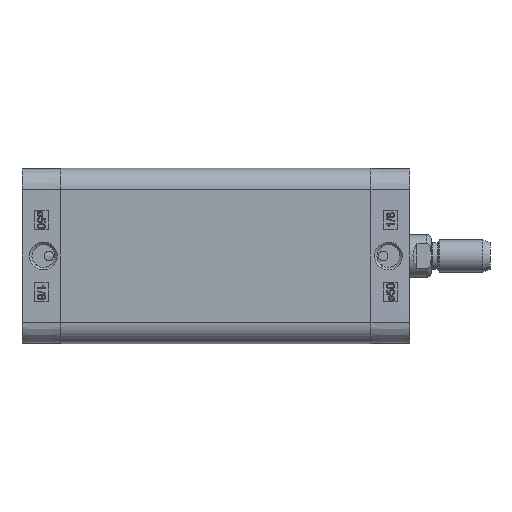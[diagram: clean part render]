
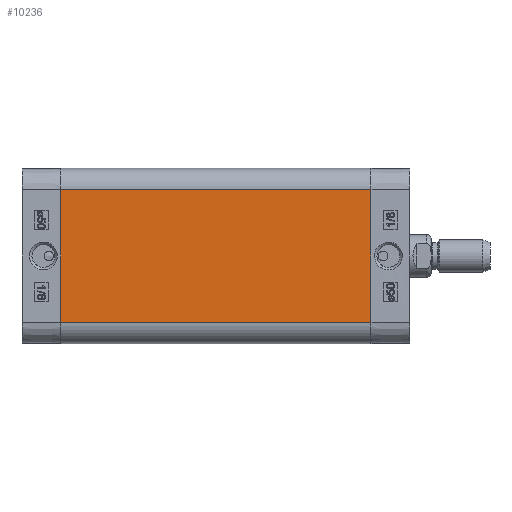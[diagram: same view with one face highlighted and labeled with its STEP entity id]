
A CAD part, left-side view. The second image highlights one B-rep face of the part: STEP entity #10236.
In plain terms, the highlighted planar face has unit normal (-1, 0, 0).
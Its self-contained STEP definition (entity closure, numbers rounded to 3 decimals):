
#5238=CARTESIAN_POINT('',(-32.75,-116.0,24.75));
#5239=VERTEX_POINT('',#5238);
#5246=CARTESIAN_POINT('',(-32.75,-116.0,-24.75));
#5247=VERTEX_POINT('',#5246);
#5248=CARTESIAN_POINT('',(-32.75,-116.0,-24.75));
#5249=DIRECTION('',(0.0,0.0,1.0));
#5250=VECTOR('',#5249,49.5);
#5251=LINE('',#5248,#5250);
#5252=EDGE_CURVE('',#5247,#5239,#5251,.T.);
#10194=CARTESIAN_POINT('',(-32.75,0.0,-24.75));
#10195=VERTEX_POINT('',#10194);
#10196=CARTESIAN_POINT('',(-32.75,0.0,-24.75));
#10197=DIRECTION('',(0.0,-1.0,0.0));
#10198=VECTOR('',#10197,116.0);
#10199=LINE('',#10196,#10198);
#10200=EDGE_CURVE('',#10195,#5247,#10199,.T.);
#10213=CARTESIAN_POINT('',(-32.75,0.0,-24.75));
#10214=DIRECTION('',(-1.0,0.0,0.0));
#10215=DIRECTION('',(0.0,0.0,1.0));
#10216=AXIS2_PLACEMENT_3D('',#10213,#10214,#10215);
#10217=PLANE('',#10216);
#10218=ORIENTED_EDGE('',*,*,#5252,.T.);
#10219=CARTESIAN_POINT('',(-32.75,0.0,24.75));
#10220=VERTEX_POINT('',#10219);
#10221=CARTESIAN_POINT('',(-32.75,0.0,24.75));
#10222=DIRECTION('',(0.0,-1.0,0.0));
#10223=VECTOR('',#10222,116.0);
#10224=LINE('',#10221,#10223);
#10225=EDGE_CURVE('',#10220,#5239,#10224,.T.);
#10226=ORIENTED_EDGE('',*,*,#10225,.F.);
#10227=CARTESIAN_POINT('',(-32.75,0.0,-24.75));
#10228=DIRECTION('',(0.0,0.0,1.0));
#10229=VECTOR('',#10228,49.5);
#10230=LINE('',#10227,#10229);
#10231=EDGE_CURVE('',#10195,#10220,#10230,.T.);
#10232=ORIENTED_EDGE('',*,*,#10231,.F.);
#10233=ORIENTED_EDGE('',*,*,#10200,.T.);
#10234=EDGE_LOOP('',(#10218,#10226,#10232,#10233));
#10235=FACE_OUTER_BOUND('',#10234,.T.);
#10236=ADVANCED_FACE('',(#10235),#10217,.T.);
